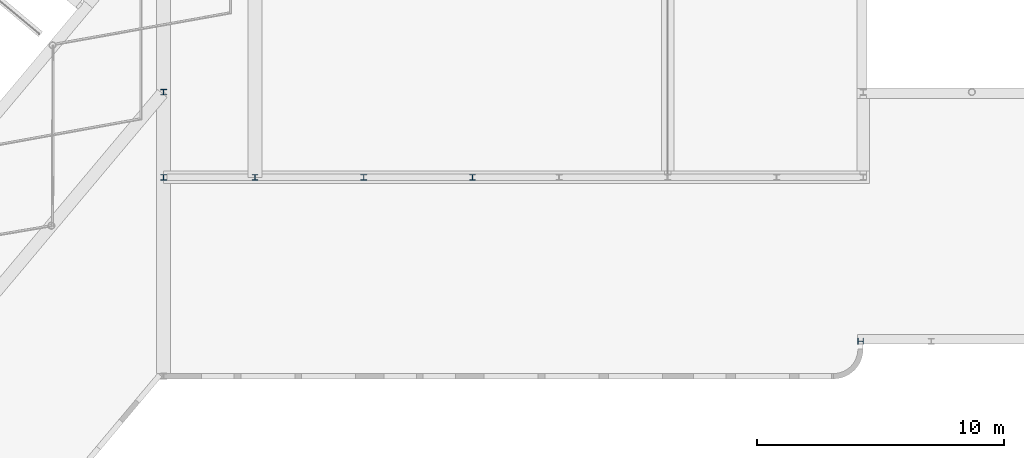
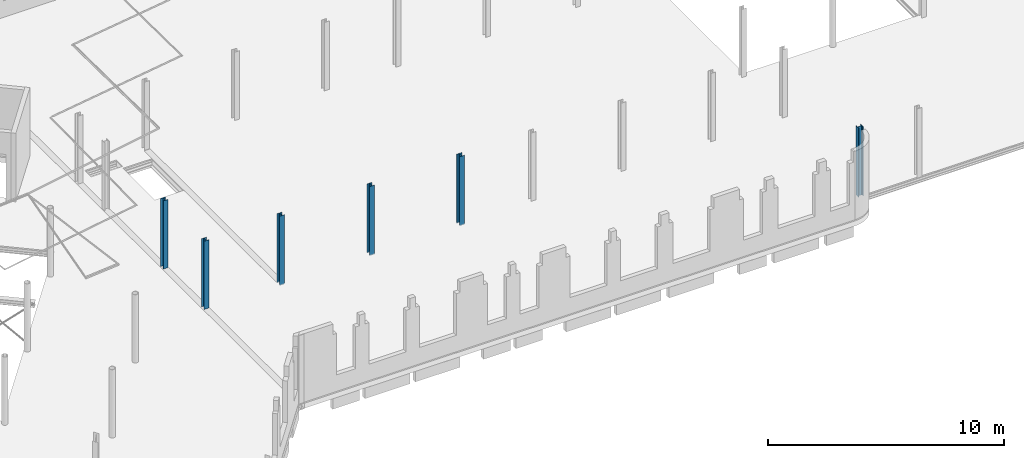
# One storey, part 4 of 25: 6 columns.
"""IFC2X3 building model written with IfcOpenShell, lengths in millimetres."""

from ifc_helpers import new_model, entity, si_unit, converted_unit, derived_unit, direction, frame, frame_2d, origin, origin_2d_with_axis, place, context, subcontext, project, spatial, i_section, extrude, source, transform, mapped, material, type_object, type_shapes, element, save


model = new_model("IFC2X3")

# Units and contexts
model_context = context("Model", 3, precision=0.01, world=origin(), true_north=direction((6.123031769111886e-17, 1.0)))
body_context = subcontext(model_context, "Body", "Model", "MODEL_VIEW")
ifc_project = project(units=[si_unit("LENGTHUNIT", "METRE", prefix="MILLI"), si_unit("AREAUNIT", "SQUARE_METRE"), si_unit("VOLUMEUNIT", "CUBIC_METRE"), derived_unit("MASSDENSITYUNIT", [(si_unit("MASSUNIT", "GRAM", prefix="KILO"), 1), (si_unit("LENGTHUNIT", "METRE"), -3)]), si_unit("MASSUNIT", "GRAM", prefix="KILO"), converted_unit("PLANEANGLEUNIT", "DEGREE", entity("IfcPlaneAngleMeasure", 0.017453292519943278), si_unit("PLANEANGLEUNIT", "RADIAN"), dimensions=[0, 0, 0, 0, 0, 0, 0])], contexts=[model_context])

# Site, building, storey
site_placement = place(None, origin())
site = spatial("IfcSite", under=ifc_project, at=site_placement, Name="Default", CompositionType="ELEMENT")
building_placement = place(site_placement, origin())
building = spatial("IfcBuilding", under=site, at=building_placement, Name="AT constructie", CompositionType="ELEMENT")
storey_placement = place(building_placement, frame((0.0, 0.0, 3864.0)))
storey = spatial("IfcBuildingStorey", under=building, at=storey_placement, Name="01 eerste verdieping", CompositionType="ELEMENT", Elevation=3864.0)

# Columns
ifc_material = material(Name="h2_staal_S355")
column_type_1 = type_object("IfcColumnType", Name="kolom_gen_HEA240", PredefinedType="COLUMN", material=ifc_material)
shared_shape_1 = source(origin(), body_context, "Body", "SweptSolid", [
    extrude(i_section(OverallWidth=239.9999999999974, OverallDepth=229.9999999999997, WebThickness=7.500000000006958, FlangeThickness=12.000000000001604, FilletRadius=21.0, at=frame_2d((0.0, 4.334310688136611e-12), x_axis=(1.0, 0.0))), frame((53646.87463111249, 19821.043508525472, 3764.0)), (0.0, 0.0, 1.0), 3578.999999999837),
])
type_shapes(column_type_1, [shared_shape_1])
column_1_placement = place(storey_placement, frame((0.0, 0.0, -3864.0)))
element("IfcColumn", 1, at=column_1_placement, inside=storey, type_object=column_type_1, material=ifc_material, Name="NLRS_28_SC_TLB_kolom HEA_gen_AT:kolom_gen_HEA240", ObjectType="NLRS_28_SC_TLB_kolom HEA_gen_AT:kolom_gen_HEA240", context=body_context, shape_type="MappedRepresentation", body=[
    mapped(shared_shape_1, transform((0.0, 0.0, 0.0), scale=1.0)),
])
column_type_2 = type_object("IfcColumnType", Name="kolom_gen_HEA240", PredefinedType="COLUMN", material=ifc_material)
shared_shape_2 = source(origin(), body_context, "Body", "SweptSolid", [
    extrude(i_section(OverallWidth=239.9999999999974, OverallDepth=229.9999999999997, WebThickness=7.500000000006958, FlangeThickness=12.000000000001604, FilletRadius=21.0, at=frame_2d((0.0, -4.334310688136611e-12), x_axis=(1.0, 0.0))), frame((49246.87463111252, 19821.043508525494, 3764.0)), (0.0, 0.0, 1.0), 3578.999999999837),
])
type_shapes(column_type_2, [shared_shape_2])
column_2_placement = place(storey_placement, frame((0.0, 0.0, -3864.0)))
element("IfcColumn", 2, at=column_2_placement, inside=storey, type_object=column_type_2, material=ifc_material, Name="NLRS_28_SC_TLB_kolom HEA_gen_AT:kolom_gen_HEA240", ObjectType="NLRS_28_SC_TLB_kolom HEA_gen_AT:kolom_gen_HEA240", context=body_context, shape_type="MappedRepresentation", body=[
    mapped(shared_shape_2, transform((0.0, 0.0, 0.0), scale=1.0)),
])
column_type_3 = type_object("IfcColumnType", Name="kolom_gen_HEA240", PredefinedType="COLUMN", material=ifc_material)
shared_shape_3 = source(origin(), body_context, "Body", "SweptSolid", [
    extrude(i_section(OverallWidth=239.9999999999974, OverallDepth=229.9999999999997, WebThickness=7.500000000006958, FlangeThickness=12.000000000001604, FilletRadius=21.0, at=origin_2d_with_axis()), frame((44846.87463111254, 19821.043508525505, 3764.0)), (0.0, 0.0, 1.0), 3578.999999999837),
])
type_shapes(column_type_3, [shared_shape_3])
column_3_placement = place(storey_placement, frame((0.0, 0.0, -3864.0)))
element("IfcColumn", 3, at=column_3_placement, inside=storey, type_object=column_type_3, material=ifc_material, Name="NLRS_28_SC_TLB_kolom HEA_gen_AT:kolom_gen_HEA240", ObjectType="NLRS_28_SC_TLB_kolom HEA_gen_AT:kolom_gen_HEA240", context=body_context, shape_type="MappedRepresentation", body=[
    mapped(shared_shape_3, transform((0.0, 0.0, 0.0), scale=1.0)),
])
column_type_4 = type_object("IfcColumnType", Name="kolom_gen_HEA240", PredefinedType="COLUMN", material=ifc_material)
shared_shape_4 = source(origin(), body_context, "Body", "SweptSolid", [
    extrude(i_section(OverallWidth=240.0000000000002, OverallDepth=230.0000000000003, WebThickness=7.499999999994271, FlangeThickness=11.999999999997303, FilletRadius=21.0, at=frame_2d((-1.0871303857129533e-12, 0.0), x_axis=(1.0, 0.0))), frame((69345.37462610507, 13186.04351987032, 3764.0), z_axis=(0.0, 0.0, 1.0), x_axis=(-7.152582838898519e-08, 1.0, 0.0)), (0.0, 0.0, 1.0), 3578.999999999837),
])
type_shapes(column_type_4, [shared_shape_4])
column_4_placement = place(storey_placement, frame((0.0, 0.0, -3864.0)))
element("IfcColumn", 4, at=column_4_placement, inside=storey, type_object=column_type_4, material=ifc_material, Name="NLRS_28_SC_TLB_kolom HEA_gen_AT:kolom_gen_HEA240", ObjectType="NLRS_28_SC_TLB_kolom HEA_gen_AT:kolom_gen_HEA240", context=body_context, shape_type="MappedRepresentation", body=[
    mapped(shared_shape_4, transform((0.0, 0.0, 0.0), scale=1.0)),
])
column_type_5 = type_object("IfcColumnType", Name="kolom_gen_HEA240", PredefinedType="COLUMN", material=ifc_material)
shared_shape_5 = source(origin(), body_context, "Body", "SweptSolid", [
    extrude(i_section(OverallWidth=239.9999999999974, OverallDepth=229.9999999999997, WebThickness=7.500000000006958, FlangeThickness=12.000000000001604, FilletRadius=21.0, at=frame_2d((8.661515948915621e-12, 0.0), x_axis=(1.0, 0.0))), frame((41146.874631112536, 19821.043508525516, 3824.0)), (0.0, 0.0, 1.0), 3518.9999999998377),
])
type_shapes(column_type_5, [shared_shape_5])
column_5_placement = place(storey_placement, frame((0.0, 0.0, -3864.0)))
element("IfcColumn", 5, at=column_5_placement, inside=storey, type_object=column_type_5, material=ifc_material, Name="NLRS_28_SC_TLB_kolom HEA_gen_AT:kolom_gen_HEA240", ObjectType="NLRS_28_SC_TLB_kolom HEA_gen_AT:kolom_gen_HEA240", context=body_context, shape_type="MappedRepresentation", body=[
    mapped(shared_shape_5, transform((0.0, 0.0, 0.0), scale=1.0)),
])
column_type_6 = type_object("IfcColumnType", Name="kolom_gen_HEA240", PredefinedType="COLUMN", material=ifc_material)
shared_shape_6 = source(origin(), body_context, "Body", "SweptSolid", [
    extrude(i_section(OverallWidth=239.9999999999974, OverallDepth=229.9999999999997, WebThickness=7.500000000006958, FlangeThickness=12.000000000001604, FilletRadius=21.0, at=frame_2d((8.661515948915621e-12, 0.0), x_axis=(1.0, 0.0))), frame((41146.874631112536, 23271.043508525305, 3824.0)), (0.0, 0.0, 1.0), 3518.9999999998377),
])
type_shapes(column_type_6, [shared_shape_6])
column_6_placement = place(storey_placement, frame((0.0, 0.0, -3864.0)))
element("IfcColumn", 6, at=column_6_placement, inside=storey, type_object=column_type_6, material=ifc_material, Name="NLRS_28_SC_TLB_kolom HEA_gen_AT:kolom_gen_HEA240", ObjectType="NLRS_28_SC_TLB_kolom HEA_gen_AT:kolom_gen_HEA240", context=body_context, shape_type="MappedRepresentation", body=[
    mapped(shared_shape_6, transform((0.0, 0.0, 0.0), scale=1.0)),
])

save(model, "model.ifc")
